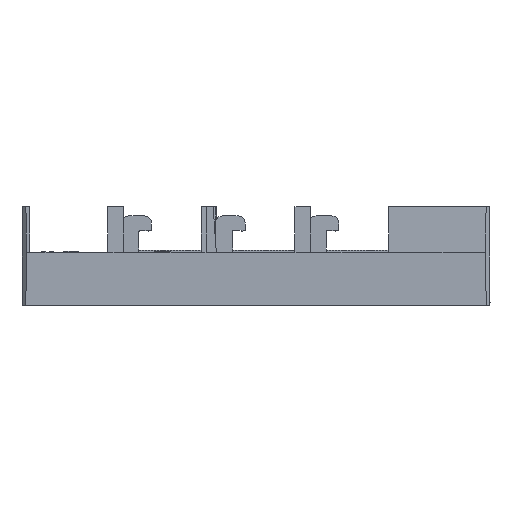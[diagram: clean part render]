
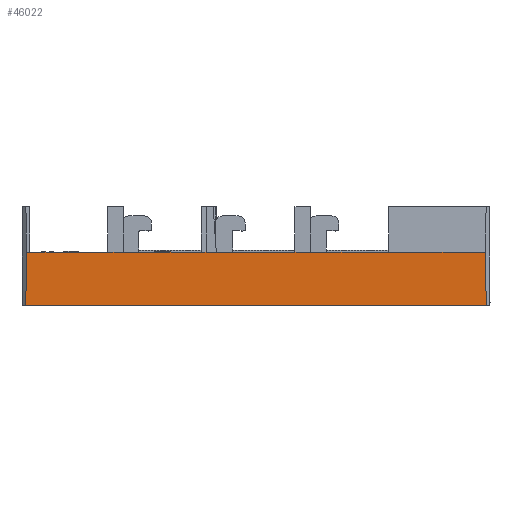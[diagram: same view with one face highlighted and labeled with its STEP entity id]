
A CAD part, front view. The second image highlights one B-rep face of the part: STEP entity #46022.
In plain terms, the highlighted planar face has unit normal (0, -1, -0.018).
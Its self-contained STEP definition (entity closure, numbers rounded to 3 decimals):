
#385 = CARTESIAN_POINT ( 'NONE',  ( 2.407, 0.593, -63. ) ) ;
#1455 = VECTOR ( 'NONE', #80396, 1000. ) ;
#2170 = EDGE_CURVE ( 'NONE', #19173, #27887, #17518, .T. ) ;
#3524 = CARTESIAN_POINT ( 'NONE',  ( -2.044, 0., -29. ) ) ;
#6273 = DIRECTION ( 'NONE',  ( -1., 0., 0. ) ) ;
#8420 = PLANE ( 'NONE',  #112420 ) ;
#10860 = LINE ( 'NONE', #40232, #118564 ) ;
#14679 = CARTESIAN_POINT ( 'NONE',  ( -2.044, 0., -29. ) ) ;
#15025 = DIRECTION ( 'NONE',  ( 1., 0., 0. ) ) ;
#15518 = EDGE_CURVE ( 'NONE', #108423, #115474, #61308, .T. ) ;
#16140 = LINE ( 'NONE', #93688, #96639 ) ;
#16404 = VECTOR ( 'NONE', #116242, 1000. ) ;
#16601 = VERTEX_POINT ( 'NONE', #45294 ) ;
#17518 = LINE ( 'NONE', #31017, #72174 ) ;
#19173 = VERTEX_POINT ( 'NONE', #80561 ) ;
#21665 = DIRECTION ( 'NONE',  ( -1., 0., 0. ) ) ;
#22042 = CARTESIAN_POINT ( 'NONE',  ( -2.044, 0., -29. ) ) ;
#22120 = LINE ( 'NONE', #14679, #76802 ) ;
#22636 = CARTESIAN_POINT ( 'NONE',  ( -2.044, 0.593, -63. ) ) ;
#22958 = ORIENTED_EDGE ( 'NONE', *, *, #15518, .T. ) ;
#23921 = VECTOR ( 'NONE', #67737, 1000. ) ;
#24643 = CARTESIAN_POINT ( 'NONE',  ( 150., 0., -29. ) ) ;
#26059 = CARTESIAN_POINT ( 'NONE',  ( -2.044, 0., -29. ) ) ;
#26776 = ORIENTED_EDGE ( 'NONE', *, *, #41126, .T. ) ;
#26867 = DIRECTION ( 'NONE',  ( 0., 0.017, -1. ) ) ;
#27887 = VERTEX_POINT ( 'NONE', #51631 ) ;
#29419 = VERTEX_POINT ( 'NONE', #31584 ) ;
#30110 = VECTOR ( 'NONE', #80145, 1000. ) ;
#31009 = VERTEX_POINT ( 'NONE', #67131 ) ;
#31017 = CARTESIAN_POINT ( 'NONE',  ( -2.044, 0., -29. ) ) ;
#31584 = CARTESIAN_POINT ( 'NONE',  ( 235., 0., -29. ) ) ;
#32967 = LINE ( 'NONE', #61118, #1455 ) ;
#34905 = ORIENTED_EDGE ( 'NONE', *, *, #74299, .T. ) ;
#35841 = EDGE_CURVE ( 'NONE', #53777, #58125, #79152, .T. ) ;
#38299 = VECTOR ( 'NONE', #70075, 1000. ) ;
#38851 = VECTOR ( 'NONE', #15025, 1000. ) ;
#39804 = ORIENTED_EDGE ( 'NONE', *, *, #109095, .T. ) ;
#40232 = CARTESIAN_POINT ( 'NONE',  ( 3., 0., -29. ) ) ;
#41126 = EDGE_CURVE ( 'NONE', #27887, #16601, #66577, .T. ) ;
#45294 = CARTESIAN_POINT ( 'NONE',  ( 115., 0., -29. ) ) ;
#46022 = ADVANCED_FACE ( 'NONE', ( #57352 ), #8420, .T. ) ;
#46576 = LINE ( 'NONE', #88225, #16404 ) ;
#51631 = CARTESIAN_POINT ( 'NONE',  ( 118., 0., -29. ) ) ;
#53777 = VERTEX_POINT ( 'NONE', #108315 ) ;
#54068 = EDGE_CURVE ( 'NONE', #57311, #58125, #22120, .T. ) ;
#54939 = DIRECTION ( 'NONE',  ( -1., 0., 0. ) ) ;
#56959 = LINE ( 'NONE', #3524, #23921 ) ;
#57311 = VERTEX_POINT ( 'NONE', #102506 ) ;
#57352 = FACE_OUTER_BOUND ( 'NONE', #113025, .T. ) ;
#57511 = DIRECTION ( 'NONE',  ( -1., 0., 0. ) ) ;
#58125 = VERTEX_POINT ( 'NONE', #67158 ) ;
#60338 = EDGE_CURVE ( 'NONE', #16601, #57311, #91970, .T. ) ;
#61118 = CARTESIAN_POINT ( 'NONE',  ( -2.044, 0., -29. ) ) ;
#61308 = LINE ( 'NONE', #22636, #38299 ) ;
#62326 = ORIENTED_EDGE ( 'NONE', *, *, #101612, .T. ) ;
#64221 = VECTOR ( 'NONE', #21665, 1000. ) ;
#66577 = LINE ( 'NONE', #109963, #80916 ) ;
#67131 = CARTESIAN_POINT ( 'NONE',  ( 297., 0., -29. ) ) ;
#67158 = CARTESIAN_POINT ( 'NONE',  ( 55., 0., -29. ) ) ;
#67737 = DIRECTION ( 'NONE',  ( -1., 0., 0. ) ) ;
#69086 = ORIENTED_EDGE ( 'NONE', *, *, #54068, .T. ) ;
#70075 = DIRECTION ( 'NONE',  ( 1., 0., 0. ) ) ;
#70573 = VERTEX_POINT ( 'NONE', #95973 ) ;
#72172 = CARTESIAN_POINT ( 'NONE',  ( 297.593, 0.593, -63. ) ) ;
#72174 = VECTOR ( 'NONE', #57511, 1000. ) ;
#74299 = EDGE_CURVE ( 'NONE', #70573, #19173, #32967, .T. ) ;
#75762 = LINE ( 'NONE', #22042, #64221 ) ;
#76802 = VECTOR ( 'NONE', #6273, 1000. ) ;
#77633 = ORIENTED_EDGE ( 'NONE', *, *, #81515, .T. ) ;
#79152 = LINE ( 'NONE', #24643, #38851 ) ;
#80145 = DIRECTION ( 'NONE',  ( -1., 0., 0. ) ) ;
#80396 = DIRECTION ( 'NONE',  ( -1., 0., 0. ) ) ;
#80561 = CARTESIAN_POINT ( 'NONE',  ( 175., 0., -29. ) ) ;
#80916 = VECTOR ( 'NONE', #54939, 1000. ) ;
#81515 = EDGE_CURVE ( 'NONE', #29419, #70573, #56959, .T. ) ;
#84224 = ORIENTED_EDGE ( 'NONE', *, *, #60338, .T. ) ;
#84628 = ORIENTED_EDGE ( 'NONE', *, *, #2170, .T. ) ;
#85642 = DIRECTION ( 'NONE',  ( -1., 0., 0. ) ) ;
#88225 = CARTESIAN_POINT ( 'NONE',  ( 297.593, 0.593, -63. ) ) ;
#89405 = ORIENTED_EDGE ( 'NONE', *, *, #109804, .T. ) ;
#89626 = ORIENTED_EDGE ( 'NONE', *, *, #110837, .T. ) ;
#91970 = LINE ( 'NONE', #116211, #30110 ) ;
#93688 = CARTESIAN_POINT ( 'NONE',  ( -2.044, 0., -29. ) ) ;
#95973 = CARTESIAN_POINT ( 'NONE',  ( 185., 0., -29. ) ) ;
#96639 = VECTOR ( 'NONE', #85642, 1000. ) ;
#101612 = EDGE_CURVE ( 'NONE', #31009, #29419, #16140, .T. ) ;
#102506 = CARTESIAN_POINT ( 'NONE',  ( 65., 0., -29. ) ) ;
#103788 = DIRECTION ( 'NONE',  ( -0.017, 0.017, -1. ) ) ;
#104123 = ORIENTED_EDGE ( 'NONE', *, *, #35841, .F. ) ;
#108285 = VERTEX_POINT ( 'NONE', #117954 ) ;
#108315 = CARTESIAN_POINT ( 'NONE',  ( 5., 0., -29. ) ) ;
#108423 = VERTEX_POINT ( 'NONE', #385 ) ;
#109095 = EDGE_CURVE ( 'NONE', #108285, #108423, #10860, .T. ) ;
#109804 = EDGE_CURVE ( 'NONE', #53777, #108285, #75762, .T. ) ;
#109963 = CARTESIAN_POINT ( 'NONE',  ( -2.044, 0., -29. ) ) ;
#110837 = EDGE_CURVE ( 'NONE', #115474, #31009, #46576, .T. ) ;
#112420 = AXIS2_PLACEMENT_3D ( 'NONE', #26059, #117972, #26867 ) ;
#113025 = EDGE_LOOP ( 'NONE', ( #104123, #89405, #39804, #22958, #89626, #62326, #77633, #34905, #84628, #26776, #84224, #69086 ) ) ;
#115474 = VERTEX_POINT ( 'NONE', #72172 ) ;
#116211 = CARTESIAN_POINT ( 'NONE',  ( -2.044, 0., -29. ) ) ;
#116242 = DIRECTION ( 'NONE',  ( -0.017, -0.017, 1. ) ) ;
#117954 = CARTESIAN_POINT ( 'NONE',  ( 3., 0., -29. ) ) ;
#117972 = DIRECTION ( 'NONE',  ( 0., -1., -0.017 ) ) ;
#118564 = VECTOR ( 'NONE', #103788, 1000. ) ;
